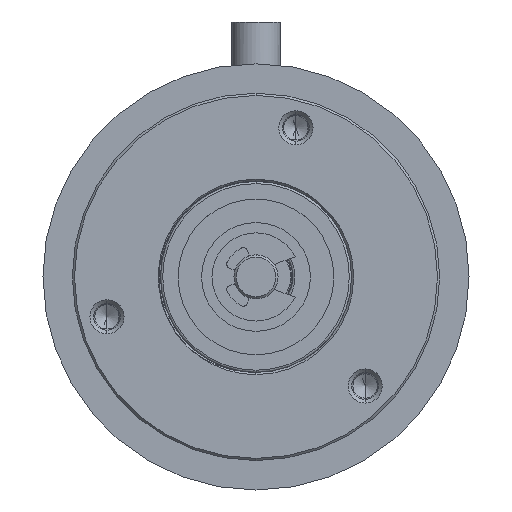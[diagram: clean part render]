
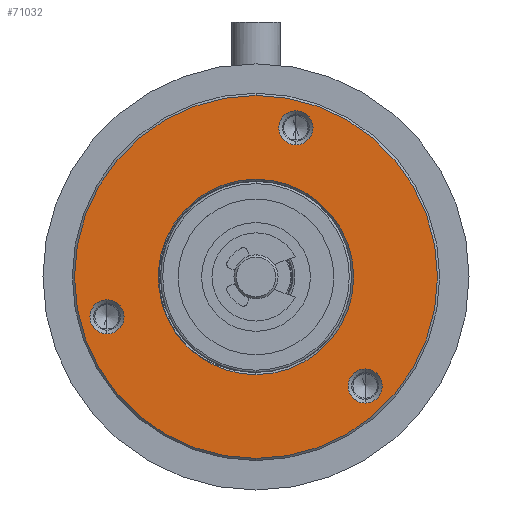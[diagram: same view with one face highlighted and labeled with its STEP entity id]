
A CAD part, left-side view. The second image highlights one B-rep face of the part: STEP entity #71032.
In plain terms, the highlighted planar face has unit normal (-1, 0, 0).
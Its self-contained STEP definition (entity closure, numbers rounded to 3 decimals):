
#508 = AXIS2_PLACEMENT_3D ( 'NONE', #64455, #29783, #70208 ) ;
#608 = VERTEX_POINT ( 'NONE', #56436 ) ;
#673 = AXIS2_PLACEMENT_3D ( 'NONE', #18268, #58717, #24113 ) ;
#1506 = VERTEX_POINT ( 'NONE', #41445 ) ;
#3032 = CARTESIAN_POINT ( 'NONE',  ( 14.945, 25.676, 6.12 ) ) ;
#3529 = CARTESIAN_POINT ( 'NONE',  ( 14.945, 25.841, 6.285 ) ) ;
#3573 = EDGE_CURVE ( 'NONE', #21720, #16679, #68121, .T. ) ;
#4317 = FACE_BOUND ( 'NONE', #60037, .T. ) ;
#6355 = CARTESIAN_POINT ( 'NONE',  ( 14.945, 36.637, 10.175 ) ) ;
#7750 = VERTEX_POINT ( 'NONE', #73620 ) ;
#7981 = EDGE_CURVE ( 'NONE', #30321, #31728, #68203, .T. ) ;
#8452 = EDGE_CURVE ( 'NONE', #58983, #30321, #31005, .T. ) ;
#9291 = CIRCLE ( 'NONE', #66591, 13.3 ) ;
#9829 = AXIS2_PLACEMENT_3D ( 'NONE', #29316, #69741, #35119 ) ;
#10225 = EDGE_CURVE ( 'NONE', #16679, #21720, #73653, .T. ) ;
#10350 = EDGE_CURVE ( 'NONE', #20625, #1506, #59296, .T. ) ;
#10545 = EDGE_CURVE ( 'NONE', #17964, #608, #59225, .T. ) ;
#10644 = EDGE_CURVE ( 'NONE', #14307, #70417, #39251, .T. ) ;
#10763 = EDGE_CURVE ( 'NONE', #48481, #58983, #9291, .T. ) ;
#10989 = EDGE_CURVE ( 'NONE', #48481, #7750, #63646, .T. ) ;
#11087 = EDGE_CURVE ( 'NONE', #7750, #31728, #36723, .T. ) ;
#11669 = CARTESIAN_POINT ( 'NONE',  ( 14.945, 16.352, 28.91 ) ) ;
#11854 = DIRECTION ( 'NONE',  ( -1., 0., 0. ) ) ;
#12212 = DIRECTION ( 'NONE',  ( 0., 0., -1. ) ) ;
#12273 = AXIS2_PLACEMENT_3D ( 'NONE', #30558, #70966, #36387 ) ;
#12704 = AXIS2_PLACEMENT_3D ( 'NONE', #19771, #60243, #25637 ) ;
#13672 = CARTESIAN_POINT ( 'NONE',  ( 14.945, 10.917, 38.219 ) ) ;
#14307 = VERTEX_POINT ( 'NONE', #21116 ) ;
#14608 = ORIENTED_EDGE ( 'NONE', *, *, #10225, .T. ) ;
#16679 = VERTEX_POINT ( 'NONE', #38239 ) ;
#17347 = ORIENTED_EDGE ( 'NONE', *, *, #8452, .F. ) ;
#17964 = VERTEX_POINT ( 'NONE', #60428 ) ;
#18185 = ORIENTED_EDGE ( 'NONE', *, *, #11087, .T. ) ;
#18268 = CARTESIAN_POINT ( 'NONE',  ( 14.945, 16.352, 15.61 ) ) ;
#19479 = AXIS2_PLACEMENT_3D ( 'NONE', #23997, #64400, #29710 ) ;
#19764 = FACE_BOUND ( 'NONE', #58593, .T. ) ;
#19771 = CARTESIAN_POINT ( 'NONE',  ( 14.945, 16.352, 15.61 ) ) ;
#20132 = CARTESIAN_POINT ( 'NONE',  ( 14.945, 25.505, 5.96 ) ) ;
#20625 = VERTEX_POINT ( 'NONE', #13672 ) ;
#21060 = CARTESIAN_POINT ( 'NONE',  ( 14.945, 26.001, 6.456 ) ) ;
#21116 = CARTESIAN_POINT ( 'NONE',  ( 14.945, 36.637, 12.5 ) ) ;
#21300 = DIRECTION ( 'NONE',  ( 1., 0., 0. ) ) ;
#21720 = VERTEX_POINT ( 'NONE', #63156 ) ;
#23850 = CARTESIAN_POINT ( 'NONE',  ( 14.945, 1.503, 0.761 ) ) ;
#23997 = CARTESIAN_POINT ( 'NONE',  ( 14.945, 16.352, 15.61 ) ) ;
#24113 = DIRECTION ( 'NONE',  ( 0., 0., -1. ) ) ;
#24456 = CARTESIAN_POINT ( 'NONE',  ( 14.945, 16.352, 15.61 ) ) ;
#25637 = DIRECTION ( 'NONE',  ( 0., 0., -1. ) ) ;
#27060 = AXIS2_PLACEMENT_3D ( 'NONE', #6355, #46898, #12212 ) ;
#29316 = CARTESIAN_POINT ( 'NONE',  ( 14.945, 1.503, 0.761 ) ) ;
#29591 = DIRECTION ( 'NONE',  ( 0., 0., -1. ) ) ;
#29710 = DIRECTION ( 'NONE',  ( 0., 0., -1. ) ) ;
#29783 = DIRECTION ( 'NONE',  ( 1., 0., 0. ) ) ;
#30198 = DIRECTION ( 'NONE',  ( 0., 0., -1. ) ) ;
#30321 = VERTEX_POINT ( 'NONE', #11669 ) ;
#30558 = CARTESIAN_POINT ( 'NONE',  ( 14.945, 36.637, 10.175 ) ) ;
#31005 = CIRCLE ( 'NONE', #74005, 13.3 ) ;
#31161 = ORIENTED_EDGE ( 'NONE', *, *, #10545, .T. ) ;
#31540 = CARTESIAN_POINT ( 'NONE',  ( 14.945, 16.352, 15.61 ) ) ;
#31728 = VERTEX_POINT ( 'NONE', #47969 ) ;
#31910 = CARTESIAN_POINT ( 'NONE',  ( 14.945, 25.505, 5.96 ) ) ;
#32401 = CARTESIAN_POINT ( 'NONE',  ( 14.945, 25.76, 6.201 ) ) ;
#33444 = CIRCLE ( 'NONE', #43960, 2.325 ) ;
#33853 = ORIENTED_EDGE ( 'NONE', *, *, #10350, .T. ) ;
#34628 = EDGE_LOOP ( 'NONE', ( #14608, #50013 ) ) ;
#34783 = ORIENTED_EDGE ( 'NONE', *, *, #10763, .F. ) ;
#35119 = DIRECTION ( 'NONE',  ( 0., 0., -1. ) ) ;
#35135 = FACE_OUTER_BOUND ( 'NONE', #34628, .T. ) ;
#35301 = PLANE ( 'NONE',  #19479 ) ;
#36387 = DIRECTION ( 'NONE',  ( 0., 0., -1. ) ) ;
#36541 = ORIENTED_EDGE ( 'NONE', *, *, #50388, .T. ) ;
#36551 = ORIENTED_EDGE ( 'NONE', *, *, #49402, .T. ) ;
#36723 = B_SPLINE_CURVE_WITH_KNOTS ( 'NONE', 3,
 ( #32401, #3529, #55773, #21060 ),
 .UNSPECIFIED., .F., .F.,
 ( 4, 4 ),
 ( 0., 0. ),
 .UNSPECIFIED. ) ;
#36965 = FACE_BOUND ( 'NONE', #68953, .T. ) ;
#37374 = DIRECTION ( 'NONE',  ( 0., 0., -1. ) ) ;
#38239 = CARTESIAN_POINT ( 'NONE',  ( 14.945, 16.352, 40.31 ) ) ;
#39251 = CIRCLE ( 'NONE', #12273, 2.325 ) ;
#41357 = CIRCLE ( 'NONE', #508, 2.325 ) ;
#41445 = CARTESIAN_POINT ( 'NONE',  ( 14.945, 10.917, 33.569 ) ) ;
#42129 = AXIS2_PLACEMENT_3D ( 'NONE', #24456, #64849, #30198 ) ;
#42826 = ORIENTED_EDGE ( 'NONE', *, *, #47426, .T. ) ;
#43537 = CARTESIAN_POINT ( 'NONE',  ( 14.945, 25.76, 6.201 ) ) ;
#43960 = AXIS2_PLACEMENT_3D ( 'NONE', #23850, #64260, #29591 ) ;
#46568 = CARTESIAN_POINT ( 'NONE',  ( 14.945, 16.352, 15.61 ) ) ;
#46898 = DIRECTION ( 'NONE',  ( 1., 0., 0. ) ) ;
#47426 = EDGE_CURVE ( 'NONE', #1506, #20625, #41357, .T. ) ;
#47969 = CARTESIAN_POINT ( 'NONE',  ( 14.945, 26.001, 6.456 ) ) ;
#48481 = VERTEX_POINT ( 'NONE', #20132 ) ;
#49402 = EDGE_CURVE ( 'NONE', #608, #17964, #33444, .T. ) ;
#50013 = ORIENTED_EDGE ( 'NONE', *, *, #3573, .T. ) ;
#50388 = EDGE_CURVE ( 'NONE', #70417, #14307, #68455, .T. ) ;
#51861 = CARTESIAN_POINT ( 'NONE',  ( 14.945, 36.637, 7.85 ) ) ;
#52391 = DIRECTION ( 'NONE',  ( 0., 0., -1. ) ) ;
#54996 = CARTESIAN_POINT ( 'NONE',  ( 14.945, 25.591, 6.039 ) ) ;
#55773 = CARTESIAN_POINT ( 'NONE',  ( 14.945, 25.922, 6.37 ) ) ;
#55986 = CARTESIAN_POINT ( 'NONE',  ( 14.945, 10.917, 35.894 ) ) ;
#56436 = CARTESIAN_POINT ( 'NONE',  ( 14.945, 1.503, -1.564 ) ) ;
#58593 = EDGE_LOOP ( 'NONE', ( #42826, #33853 ) ) ;
#58717 = DIRECTION ( 'NONE',  ( -1., 0., 0. ) ) ;
#58983 = VERTEX_POINT ( 'NONE', #74052 ) ;
#59225 = CIRCLE ( 'NONE', #9829, 2.325 ) ;
#59296 = CIRCLE ( 'NONE', #63200, 2.325 ) ;
#60037 = EDGE_LOOP ( 'NONE', ( #36551, #31161 ) ) ;
#60243 = DIRECTION ( 'NONE',  ( -1., 0., 0. ) ) ;
#60428 = CARTESIAN_POINT ( 'NONE',  ( 14.945, 1.503, 3.086 ) ) ;
#61746 = DIRECTION ( 'NONE',  ( 0., 0., -1. ) ) ;
#61953 = ORIENTED_EDGE ( 'NONE', *, *, #10644, .T. ) ;
#62820 = EDGE_LOOP ( 'NONE', ( #36541, #61953 ) ) ;
#63156 = CARTESIAN_POINT ( 'NONE',  ( 14.945, 16.352, -9.09 ) ) ;
#63200 = AXIS2_PLACEMENT_3D ( 'NONE', #55986, #21300, #61746 ) ;
#63646 = B_SPLINE_CURVE_WITH_KNOTS ( 'NONE', 3,
 ( #31910, #54996, #3032, #43537 ),
 .UNSPECIFIED., .F., .F.,
 ( 4, 4 ),
 ( 0.038, 0.039 ),
 .UNSPECIFIED. ) ;
#64260 = DIRECTION ( 'NONE',  ( 1., 0., 0. ) ) ;
#64400 = DIRECTION ( 'NONE',  ( -1., 0., 0. ) ) ;
#64455 = CARTESIAN_POINT ( 'NONE',  ( 14.945, 10.917, 35.894 ) ) ;
#64849 = DIRECTION ( 'NONE',  ( -1., 0., 0. ) ) ;
#65893 = FACE_BOUND ( 'NONE', #62820, .T. ) ;
#66591 = AXIS2_PLACEMENT_3D ( 'NONE', #31540, #71949, #37374 ) ;
#68121 = CIRCLE ( 'NONE', #673, 24.7 ) ;
#68203 = CIRCLE ( 'NONE', #42129, 13.3 ) ;
#68455 = CIRCLE ( 'NONE', #27060, 2.325 ) ;
#68821 = ORIENTED_EDGE ( 'NONE', *, *, #7981, .F. ) ;
#68953 = EDGE_LOOP ( 'NONE', ( #34783, #72330, #18185, #68821, #17347 ) ) ;
#69741 = DIRECTION ( 'NONE',  ( 1., 0., 0. ) ) ;
#70208 = DIRECTION ( 'NONE',  ( 0., 0., -1. ) ) ;
#70417 = VERTEX_POINT ( 'NONE', #51861 ) ;
#70966 = DIRECTION ( 'NONE',  ( 1., 0., 0. ) ) ;
#71032 = ADVANCED_FACE ( 'NONE', ( #35135, #19764, #4317, #65893, #36965 ), #35301, .T. ) ;
#71949 = DIRECTION ( 'NONE',  ( -1., 0., 0. ) ) ;
#72330 = ORIENTED_EDGE ( 'NONE', *, *, #10989, .T. ) ;
#73620 = CARTESIAN_POINT ( 'NONE',  ( 14.945, 25.76, 6.201 ) ) ;
#73653 = CIRCLE ( 'NONE', #12704, 24.7 ) ;
#74005 = AXIS2_PLACEMENT_3D ( 'NONE', #46568, #11854, #52391 ) ;
#74052 = CARTESIAN_POINT ( 'NONE',  ( 14.945, 16.352, 2.31 ) ) ;
